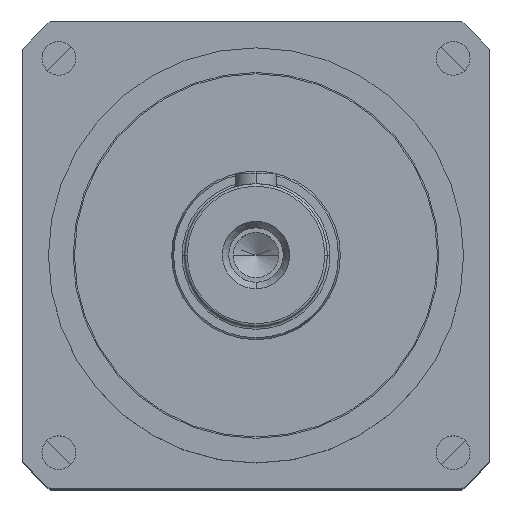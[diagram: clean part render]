
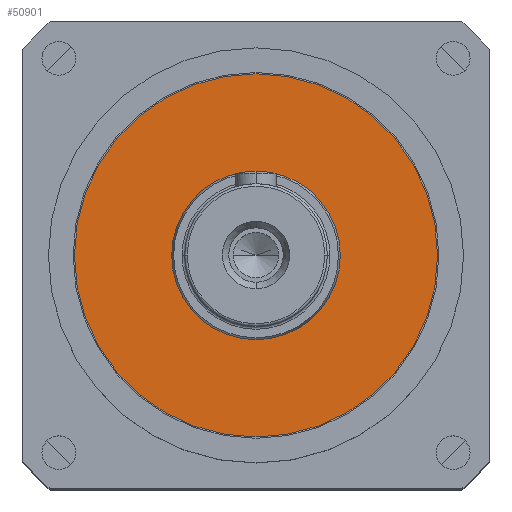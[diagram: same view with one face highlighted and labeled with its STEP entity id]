
A CAD part, top view. The second image highlights one B-rep face of the part: STEP entity #50901.
In plain terms, the highlighted planar face has unit normal (0, 0, 1).
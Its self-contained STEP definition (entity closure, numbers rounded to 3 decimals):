
#1055 = EDGE_CURVE ( 'NONE', #29932, #7062, #28492, .T. ) ;
#2149 = CARTESIAN_POINT ( 'NONE',  ( -167.408, -90., 0. ) ) ;
#3556 = EDGE_LOOP ( 'NONE', ( #35865, #15169 ) ) ;
#3566 = AXIS2_PLACEMENT_3D ( 'NONE', #53363, #34524, #44105 ) ;
#5886 = AXIS2_PLACEMENT_3D ( 'NONE', #27316, #23274, #54237 ) ;
#7062 = VERTEX_POINT ( 'NONE', #36469 ) ;
#7625 = CARTESIAN_POINT ( 'NONE',  ( -27.408, -90., 0. ) ) ;
#14145 = VERTEX_POINT ( 'NONE', #2149 ) ;
#15169 = ORIENTED_EDGE ( 'NONE', *, *, #38333, .F. ) ;
#16265 = DIRECTION ( 'NONE',  ( 1., 0., 0. ) ) ;
#16351 = CIRCLE ( 'NONE', #48674, 70. ) ;
#16366 = CIRCLE ( 'NONE', #21889, 32.5 ) ;
#18110 = ORIENTED_EDGE ( 'NONE', *, *, #42946, .T. ) ;
#19772 = CARTESIAN_POINT ( 'NONE',  ( -97.408, -90., 0. ) ) ;
#19892 = EDGE_CURVE ( 'NONE', #14145, #30568, #16351, .T. ) ;
#21889 = AXIS2_PLACEMENT_3D ( 'NONE', #37361, #28978, #16265 ) ;
#23274 = DIRECTION ( 'NONE',  ( 0., 0., 1. ) ) ;
#23551 = PLANE ( 'NONE',  #33822 ) ;
#25277 = CIRCLE ( 'NONE', #5886, 70. ) ;
#27316 = CARTESIAN_POINT ( 'NONE',  ( -97.408, -90., 0. ) ) ;
#27325 = FACE_BOUND ( 'NONE', #3556, .T. ) ;
#28492 = CIRCLE ( 'NONE', #3566, 32.5 ) ;
#28978 = DIRECTION ( 'NONE',  ( 0., 0., 1. ) ) ;
#29932 = VERTEX_POINT ( 'NONE', #43040 ) ;
#30568 = VERTEX_POINT ( 'NONE', #7625 ) ;
#33368 = DIRECTION ( 'NONE',  ( 0., 0., 1. ) ) ;
#33822 = AXIS2_PLACEMENT_3D ( 'NONE', #19772, #33368, #37420 ) ;
#34524 = DIRECTION ( 'NONE',  ( 0., 0., 1. ) ) ;
#35865 = ORIENTED_EDGE ( 'NONE', *, *, #1055, .F. ) ;
#36469 = CARTESIAN_POINT ( 'NONE',  ( -64.908, -90., 0. ) ) ;
#37361 = CARTESIAN_POINT ( 'NONE',  ( -97.408, -90., 0. ) ) ;
#37420 = DIRECTION ( 'NONE',  ( 1., 0., 0. ) ) ;
#38333 = EDGE_CURVE ( 'NONE', #7062, #29932, #16366, .T. ) ;
#42946 = EDGE_CURVE ( 'NONE', #30568, #14145, #25277, .T. ) ;
#43040 = CARTESIAN_POINT ( 'NONE',  ( -129.908, -90., 0. ) ) ;
#44105 = DIRECTION ( 'NONE',  ( 1., 0., 0. ) ) ;
#47633 = EDGE_LOOP ( 'NONE', ( #18110, #57085 ) ) ;
#48674 = AXIS2_PLACEMENT_3D ( 'NONE', #51026, #54795, #50447 ) ;
#49909 = FACE_OUTER_BOUND ( 'NONE', #47633, .T. ) ;
#50447 = DIRECTION ( 'NONE',  ( 1., 0., 0. ) ) ;
#50901 = ADVANCED_FACE ( 'NONE', ( #49909, #27325 ), #23551, .T. ) ;
#51026 = CARTESIAN_POINT ( 'NONE',  ( -97.408, -90., 0. ) ) ;
#53363 = CARTESIAN_POINT ( 'NONE',  ( -97.408, -90., 0. ) ) ;
#54237 = DIRECTION ( 'NONE',  ( 1., 0., 0. ) ) ;
#54795 = DIRECTION ( 'NONE',  ( 0., 0., 1. ) ) ;
#57085 = ORIENTED_EDGE ( 'NONE', *, *, #19892, .T. ) ;
